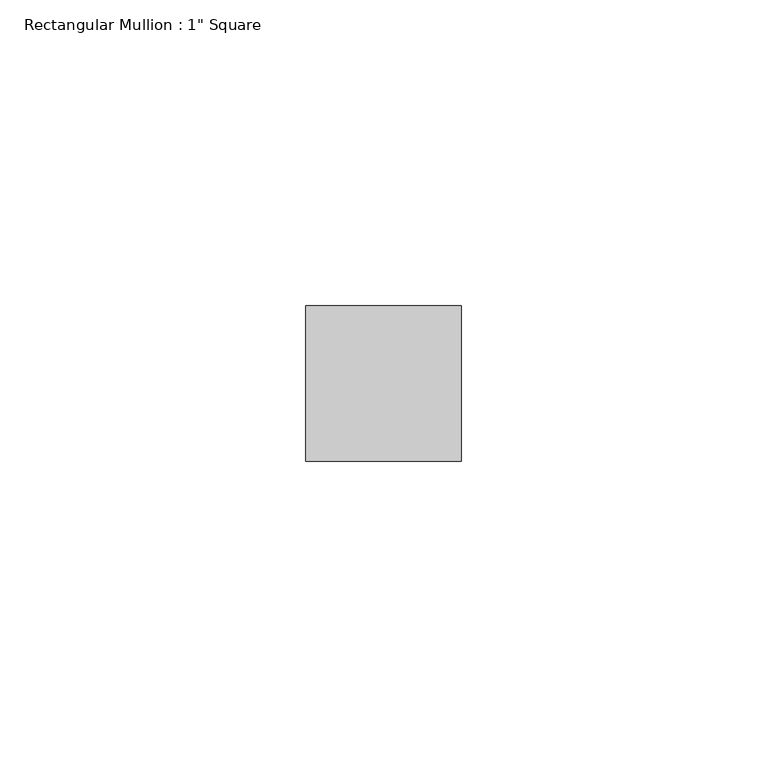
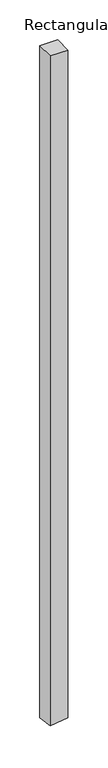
"""IFC4 building model written with IfcOpenShell, lengths in millimetres: member geometry."""

from ifc_helpers import new_model, si_unit, origin, place, context, project, spatial, faceted_brep, source, transform, mapped, element, save


def member_b0e9279f(model_context):
    return source(origin(), model_context, "Body", "Brep", [
        faceted_brep([(12.7, 12.7, 0.0), (-12.7, 12.7, 0.0), (-12.7, -12.7, 0.0), (12.7, -12.7, 0.0), (12.7, 12.7, -1023.0411015), (-12.7, 12.7, -1026.1018966), (-12.7, -12.7, -1022.2763806), (12.7, -12.7, -1019.2155855)], [[[0, 1, 2, 3]], [[1, 0, 4, 5]], [[2, 1, 5, 6]], [[3, 2, 6, 7]], [[0, 3, 7, 4]], [[4, 7, 6, 5]]]),
    ])


if __name__ == "__main__":
    model = new_model("IFC4")
    model_context = context("Model", 3, world=origin())
    ifc_project = project(units=[si_unit("LENGTHUNIT", "METRE", prefix="MILLI")], contexts=[model_context])
    site = spatial("IfcSite", under=ifc_project)
    building = spatial("IfcBuilding", under=site)
    placement = place(None, origin())
    member_shape = member_b0e9279f(model_context)
    element("IfcMember", 1, ObjectType="Rectangular Mullion : 1\" Square", at=placement, inside=building, context=model_context, shape_type="MappedRepresentation", body=[
        mapped(member_shape, transform((0.0, 0.0, 0.0), x_axis=(1.0, 0.0, 0.0), y_axis=(0.0, 1.0, 0.0), z_axis=(0.0, 0.0, 1.0))),
    ])
    save(model, "model.ifc")
